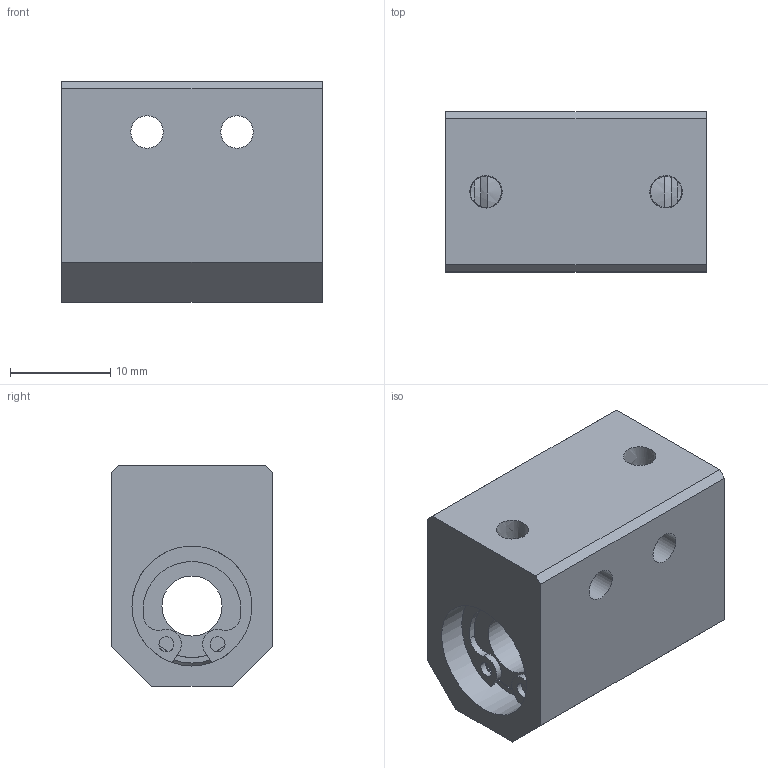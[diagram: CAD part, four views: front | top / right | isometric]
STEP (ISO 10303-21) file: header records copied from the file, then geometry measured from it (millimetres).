
FILE_DESCRIPTION((''),'2;1');
FILE_NAME('D:\製品 (図面)\カタログ用3D\リニアベアリング関連(改)\STEP形式\CH\CH6.stp','2010-01-25T09:31:53',('Tsuchiya'),(''),'Autodesk Inventor 10','Autodesk Inventor 10','');
FILE_SCHEMA(('AUTOMOTIVE_DESIGN { 1 0 10303 214 1 1 1 1 }'));
Length unit declared in the file: millimetre
Products named in the file (1): CH6
Bounding box: 26 x 16 x 22 mm (x, y, z)
Volume: 6818.1 mm3; surface area: 3997.8 mm2
Topology: 1 solids, 3 shells, 71 faces, 203 edges, 128 vertices
Faces by surface type: plane 27, bspline 23, cylinder 21
Full cylindrical faces by diameter (mm): 1.5 x2, 6 x1, 10.3 x2, 11.5 x2, 12 x4
Entity records: 2477 total; most frequent: CARTESIAN_POINT 793, DIRECTION 334, ORIENTED_EDGE 332, EDGE_CURVE 166, AXIS2_PLACEMENT_3D 135, VERTEX_POINT 114, EDGE_LOOP 110, CIRCLE 88
